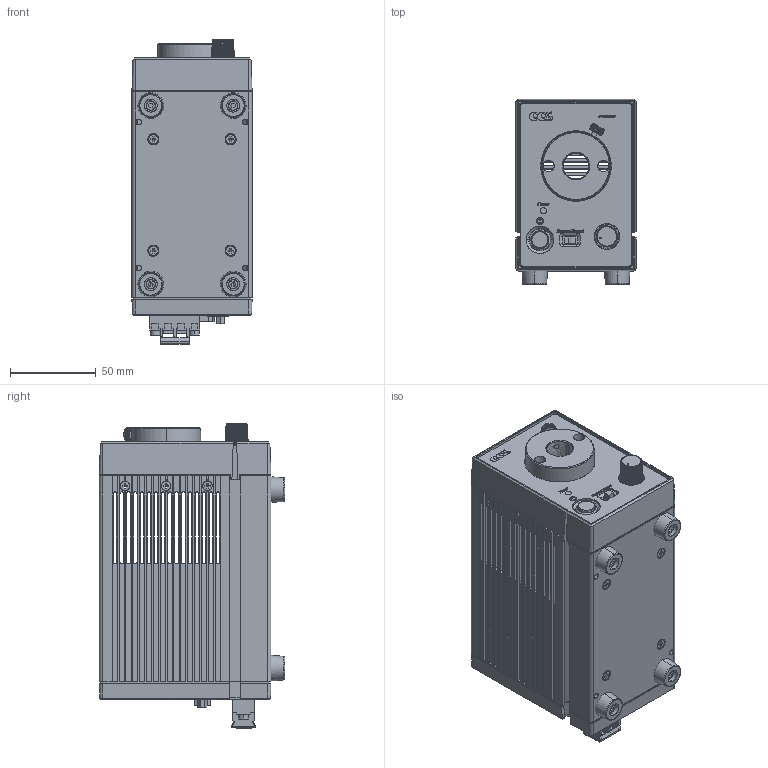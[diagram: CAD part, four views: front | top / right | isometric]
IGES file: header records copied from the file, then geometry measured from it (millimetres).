
Start section: SolidWorks IGES file using NURBS representation for surfaces
Bounding box: 70 x 108 x 177.62 mm (x, y, z)
Surface area: 137537.5 mm2 (no closed solid volume)
Topology: 0 solids, 0 shells, 1779 faces, 23032 edges, 22982 vertices
Faces by surface type: bspline 1779
